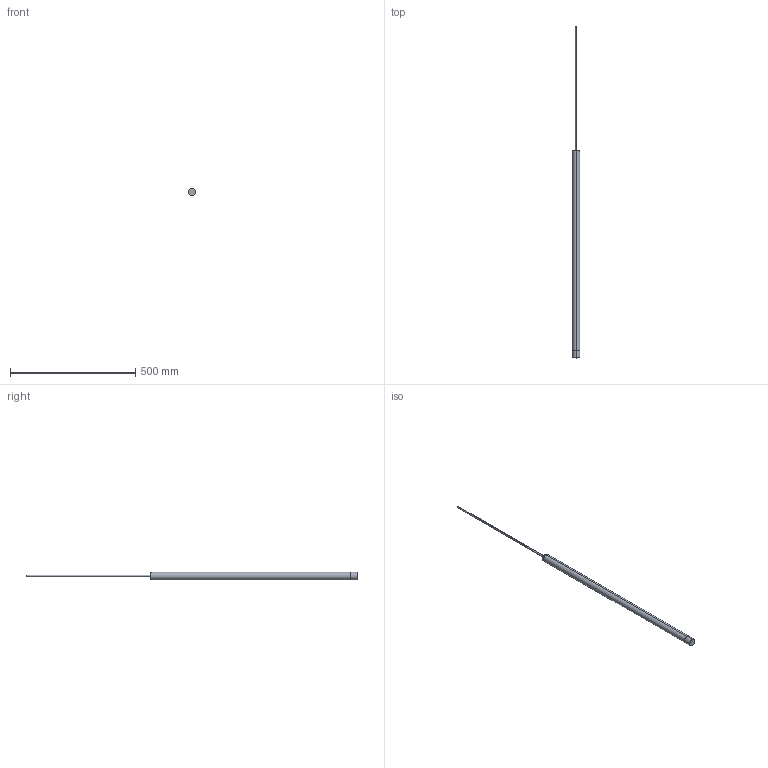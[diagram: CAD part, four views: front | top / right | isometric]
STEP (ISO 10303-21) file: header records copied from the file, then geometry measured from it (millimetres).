
FILE_DESCRIPTION (( 'STEP AP203' ), '1' );
FILE_NAME ('tob lines 80.STEP', '2022-11-21T00:11:21', ( '' ), ( '' ), 'SwSTEP 2.0', 'SolidWorks 2014', '' );
FILE_SCHEMA (( 'CONFIG_CONTROL_DESIGN' ));
Length unit declared in the file: millimetre
Products named in the file (1): tob lines 80
Bounding box: 30 x 1326 x 30 mm (x, y, z)
Volume: 558342.4 mm3; surface area: 110726.4 mm2
Topology: 3 solids, 3 shells, 25 faces, 46 edges, 28 vertices
Faces by surface type: cylinder 10, torus 8, plane 7
Entity records: 709 total; most frequent: DIRECTION 134, CARTESIAN_POINT 100, ORIENTED_EDGE 92, AXIS2_PLACEMENT_3D 62, EDGE_CURVE 46, CIRCLE 36, EDGE_LOOP 28, VERTEX_POINT 28
